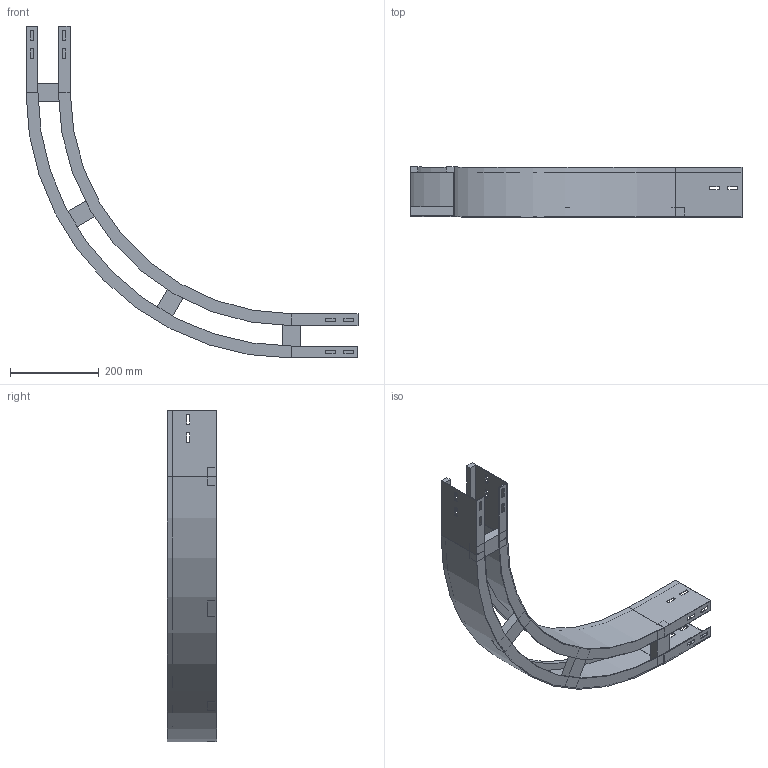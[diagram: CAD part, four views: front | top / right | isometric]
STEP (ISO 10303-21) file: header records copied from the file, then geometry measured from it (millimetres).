
FILE_DESCRIPTION (( 'STEP AP214' ), '1' );
FILE_NAME ('10B5J100.step', '2025-02-21T15:23:53', ( '' ), ( '' ), 'SwSTEP 2.0', 'SolidWorks 2023', '' );
FILE_SCHEMA (( 'AUTOMOTIVE_DESIGN' ));
Length unit declared in the file: millimetre
Products named in the file (4): 10B5J100; A2_LONGH.INTERNO 90°_H112.5_R500; A2_LONGH.ESTERNO 90°_H112.5_R500+100; TRAVERSINO_100
Assembly tree (6 placements, depth 2):
  10B5J100
    A2_LONGH.INTERNO 90°_H112.5_R500
    A2_LONGH.ESTERNO 90°_H112.5_R500+100
    TRAVERSINO_100  x4
Bounding box: 750 x 112.5 x 750 mm (x, y, z)
Volume: 1393230.1 mm3; surface area: 775709.4 mm2
Topology: 6 solids, 6 shells, 140 faces, 352 edges, 224 vertices
Faces by surface type: plane 132, cylinder 8
Entity records: 3829 total; most frequent: CARTESIAN_POINT 647, ORIENTED_EDGE 632, DIRECTION 594, EDGE_CURVE 316, LINE 300, VECTOR 300, VERTEX_POINT 200, EDGE_LOOP 154
